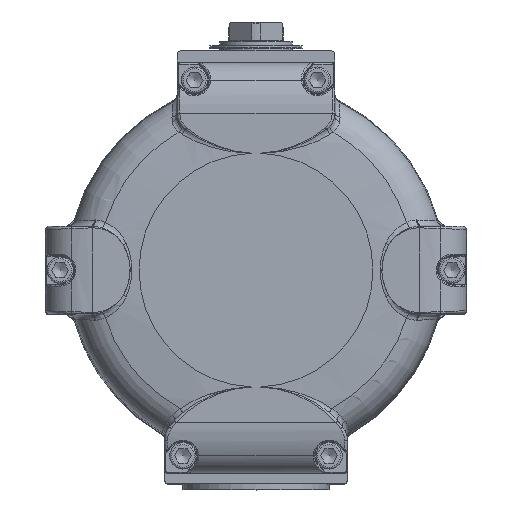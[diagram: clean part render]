
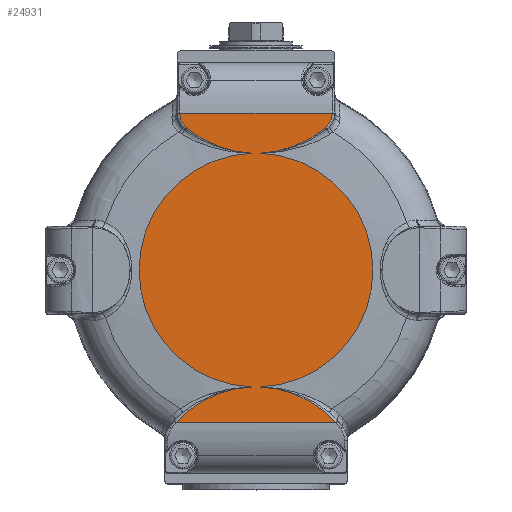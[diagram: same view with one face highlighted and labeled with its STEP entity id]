
A CAD part, top view. The second image highlights one B-rep face of the part: STEP entity #24931.
In plain terms, the highlighted planar face has unit normal (0, 0, 1).
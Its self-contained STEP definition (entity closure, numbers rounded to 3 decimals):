
#22497=CARTESIAN_POINT('',(2.764,-79.952,181.1));
#22498=VERTEX_POINT('',#22497);
#22546=CARTESIAN_POINT('',(2.764,79.952,181.1));
#22547=VERTEX_POINT('',#22546);
#22578=CARTESIAN_POINT('',(0.,0.,181.1));
#22579=DIRECTION('',(0.0,0.0,-1.0));
#22580=DIRECTION('',(1.0,0.0,0.0));
#22581=AXIS2_PLACEMENT_3D('',#22578,#22579,#22580);
#22582=CIRCLE('',#22581,80.0);
#22583=EDGE_CURVE('',#22547,#22498,#22582,.T.);
#22780=CARTESIAN_POINT('',(-52.1,107.39,181.1));
#22781=VERTEX_POINT('',#22780);
#22836=CARTESIAN_POINT('',(47.515,97.449,181.1));
#22837=VERTEX_POINT('',#22836);
#22845=CARTESIAN_POINT('',(0.,153.0,181.1));
#22846=DIRECTION('',(0.,0.,-1.));
#22847=DIRECTION('',(0.423,-0.906,0.));
#22848=AXIS2_PLACEMENT_3D('',#22845,#22846,#22847);
#22849=CIRCLE('',#22848,73.1);
#22850=EDGE_CURVE('',#22837,#22547,#22849,.T.);
#22876=CARTESIAN_POINT('',(52.1,107.39,181.1));
#22877=VERTEX_POINT('',#22876);
#22885=CARTESIAN_POINT('',(39.,107.404,181.1));
#22886=DIRECTION('',(0.,0.,-1.));
#22887=DIRECTION('',(0.908,-0.419,0.));
#22888=AXIS2_PLACEMENT_3D('',#22885,#22886,#22887);
#22889=CIRCLE('',#22888,13.1);
#22890=EDGE_CURVE('',#22877,#22837,#22889,.T.);
#22970=CARTESIAN_POINT('',(-2.764,79.952,181.1));
#22971=VERTEX_POINT('',#22970);
#23010=CARTESIAN_POINT('',(-47.515,97.449,181.1));
#23011=VERTEX_POINT('',#23010);
#23012=CARTESIAN_POINT('',(0.,153.0,181.1));
#23013=DIRECTION('',(0.,0.,-1.0));
#23014=DIRECTION('',(-0.423,-0.906,0.));
#23015=AXIS2_PLACEMENT_3D('',#23012,#23013,#23014);
#23016=CIRCLE('',#23015,73.1);
#23017=EDGE_CURVE('',#22971,#23011,#23016,.T.);
#23059=CARTESIAN_POINT('',(-39.,107.404,181.1));
#23060=DIRECTION('',(0.,0.,-1.0));
#23061=DIRECTION('',(-0.908,-0.419,0.));
#23062=AXIS2_PLACEMENT_3D('',#23059,#23060,#23061);
#23063=CIRCLE('',#23062,13.1);
#23064=EDGE_CURVE('',#23011,#22781,#23063,.T.);
#24484=CARTESIAN_POINT('',(-2.764,-79.952,181.1));
#24485=VERTEX_POINT('',#24484);
#24513=CARTESIAN_POINT('',(0.,0.,181.1));
#24514=DIRECTION('',(0.0,0.0,-1.0));
#24515=DIRECTION('',(1.0,0.0,0.0));
#24516=AXIS2_PLACEMENT_3D('',#24513,#24514,#24515);
#24517=CIRCLE('',#24516,80.0);
#24518=EDGE_CURVE('',#24485,#22971,#24517,.T.);
#24698=CARTESIAN_POINT('',(54.596,-104.39,181.1));
#24699=VERTEX_POINT('',#24698);
#24890=CARTESIAN_POINT('',(40.,0.,181.1));
#24891=DIRECTION('',(0.0,0.0,1.0));
#24892=DIRECTION('',(0.0,1.0,0.0));
#24893=AXIS2_PLACEMENT_3D('',#24890,#24891,#24892);
#24894=PLANE('',#24893);
#24895=ORIENTED_EDGE('',*,*,#24518,.F.);
#24896=CARTESIAN_POINT('',(-54.596,-104.39,181.1));
#24897=VERTEX_POINT('',#24896);
#24898=CARTESIAN_POINT('',(0.,-153.0,181.1));
#24899=DIRECTION('',(0.,0.,-1.));
#24900=DIRECTION('',(-0.493,0.87,0.));
#24901=AXIS2_PLACEMENT_3D('',#24898,#24899,#24900);
#24902=CIRCLE('',#24901,73.1);
#24903=EDGE_CURVE('',#24897,#24485,#24902,.T.);
#24904=ORIENTED_EDGE('',*,*,#24903,.F.);
#24905=CARTESIAN_POINT('',(-54.596,-104.39,181.1));
#24906=DIRECTION('',(1.0,0.0,0.0));
#24907=VECTOR('',#24906,109.192);
#24908=LINE('',#24905,#24907);
#24909=EDGE_CURVE('',#24897,#24699,#24908,.T.);
#24910=ORIENTED_EDGE('',*,*,#24909,.T.);
#24911=CARTESIAN_POINT('',(0.,-153.0,181.1));
#24912=DIRECTION('',(0.,0.,-1.));
#24913=DIRECTION('',(0.493,0.87,0.));
#24914=AXIS2_PLACEMENT_3D('',#24911,#24912,#24913);
#24915=CIRCLE('',#24914,73.1);
#24916=EDGE_CURVE('',#22498,#24699,#24915,.T.);
#24917=ORIENTED_EDGE('',*,*,#24916,.F.);
#24918=ORIENTED_EDGE('',*,*,#22583,.F.);
#24919=ORIENTED_EDGE('',*,*,#22850,.F.);
#24920=ORIENTED_EDGE('',*,*,#22890,.F.);
#24921=CARTESIAN_POINT('',(-52.1,107.39,181.1));
#24922=DIRECTION('',(1.0,0.0,0.0));
#24923=VECTOR('',#24922,104.2);
#24924=LINE('',#24921,#24923);
#24925=EDGE_CURVE('',#22781,#22877,#24924,.T.);
#24926=ORIENTED_EDGE('',*,*,#24925,.F.);
#24927=ORIENTED_EDGE('',*,*,#23064,.F.);
#24928=ORIENTED_EDGE('',*,*,#23017,.F.);
#24929=EDGE_LOOP('',(#24895,#24904,#24910,#24917,#24918,#24919,#24920,#24926,#24927,#24928));
#24930=FACE_OUTER_BOUND('',#24929,.T.);
#24931=ADVANCED_FACE('',(#24930),#24894,.T.);
